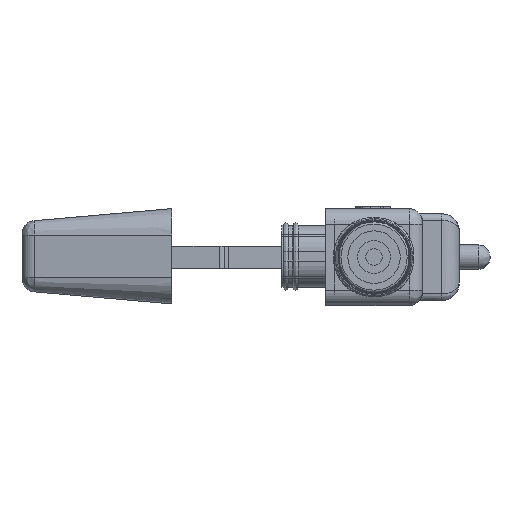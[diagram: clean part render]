
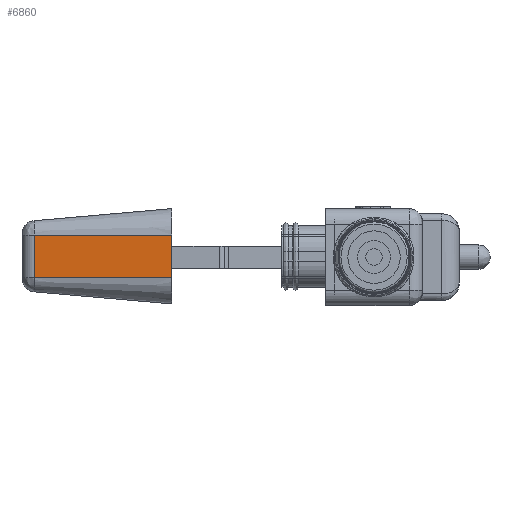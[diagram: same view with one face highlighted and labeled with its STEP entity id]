
A CAD part, left-side view. The second image highlights one B-rep face of the part: STEP entity #6860.
In plain terms, the highlighted planar face has unit normal (-0.996, 0.087, 0) as drawn and (-0.996, 0, 0.087) by its records, which use the part's own axes.
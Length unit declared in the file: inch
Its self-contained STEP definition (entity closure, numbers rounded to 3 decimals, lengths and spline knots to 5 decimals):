
#602=LINE('',#12756,#1139);
#613=LINE('',#12825,#1150);
#614=LINE('',#12829,#1151);
#615=LINE('',#12830,#1152);
#1139=VECTOR('',#8763,0.3937);
#1150=VECTOR('',#8814,0.3937);
#1151=VECTOR('',#8819,0.3937);
#1152=VECTOR('',#8820,0.3937);
#1666=PLANE('',#7451);
#2011=FACE_OUTER_BOUND('',#2427,.T.);
#2427=EDGE_LOOP('',(#5853,#5854,#5855,#5856));
#3267=VERTEX_POINT('',#12748);
#3269=VERTEX_POINT('',#12754);
#3280=VERTEX_POINT('',#12824);
#3281=VERTEX_POINT('',#12828);
#4167=EDGE_CURVE('',#3269,#3267,#602,.T.);
#4190=EDGE_CURVE('',#3280,#3267,#613,.T.);
#4192=EDGE_CURVE('',#3281,#3269,#614,.T.);
#4193=EDGE_CURVE('',#3281,#3280,#615,.T.);
#5853=ORIENTED_EDGE('',*,*,#4167,.F.);
#5854=ORIENTED_EDGE('',*,*,#4192,.F.);
#5855=ORIENTED_EDGE('',*,*,#4193,.T.);
#5856=ORIENTED_EDGE('',*,*,#4190,.T.);
#6860=ADVANCED_FACE('',(#2011),#1666,.T.);
#7451=AXIS2_PLACEMENT_3D('',#12827,#8817,#8818);
#8763=DIRECTION('',(0.,-1.,0.));
#8814=DIRECTION('',(0.087,0.,0.996));
#8817=DIRECTION('center_axis',(-0.996,0.,0.087));
#8818=DIRECTION('ref_axis',(0.,-1.,0.));
#8819=DIRECTION('',(0.087,0.,0.996));
#8820=DIRECTION('',(0.,-1.,0.));
#12748=CARTESIAN_POINT('',(0.1577,0.11975,1.76523));
#12754=CARTESIAN_POINT('',(0.1577,0.31275,1.76523));
#12756=CARTESIAN_POINT('',(0.1577,0.168,1.76523));
#12824=CARTESIAN_POINT('',(0.103,0.11975,1.14));
#12825=CARTESIAN_POINT('',(0.103,0.11975,1.14));
#12827=CARTESIAN_POINT('Origin',(0.103,0.11975,1.14));
#12828=CARTESIAN_POINT('',(0.103,0.31275,1.14));
#12829=CARTESIAN_POINT('',(0.103,0.31275,1.14));
#12830=CARTESIAN_POINT('',(0.103,0.31275,1.14));
